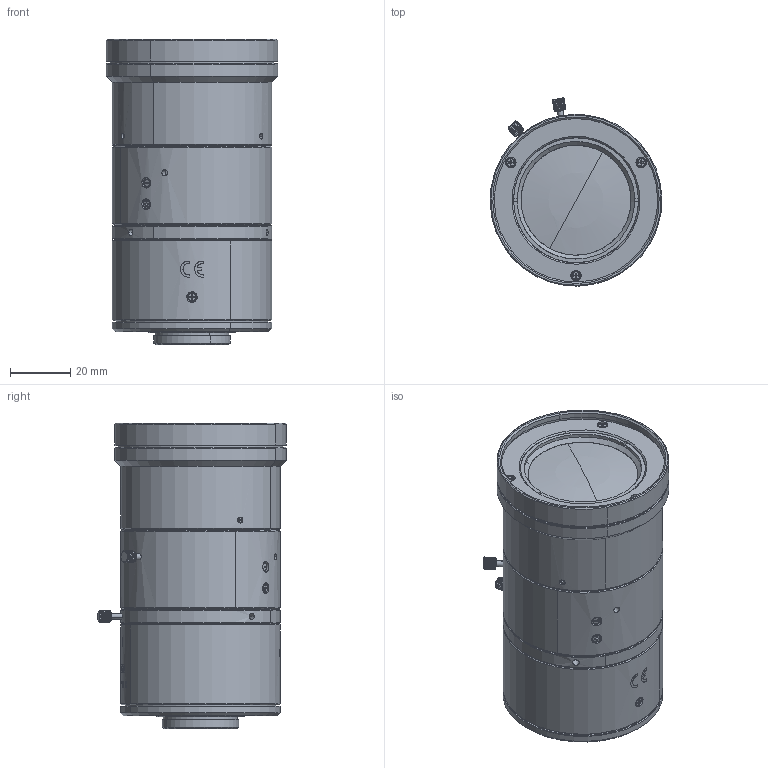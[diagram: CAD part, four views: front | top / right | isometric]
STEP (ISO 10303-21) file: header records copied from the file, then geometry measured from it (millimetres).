
FILE_DESCRIPTION(('CATIA V5 STEP Exchange'),'2;1');
FILE_NAME('\\Cadsys-srv224\13_特機設技-秘\01_機構設計\01_機種別\00.開発・量産機種\CATIA_data\EC004E0000(M695 f=25)\07_to客先\11_TEG\3D_CAD\M111FM25.stp','2015-01-29T07:09:17+00:00',('none'),('none'),'CATIA Version 5 Release 19 SP 8 (IN-10)','CATIA V5 STEP AP203','none');
FILE_SCHEMA(('CONFIG_CONTROL_DESIGN'));
Products named in the file (1): M111FM25
Bounding box: 56.98 x 62.57 x 101.27 mm (x, y, z)
Volume: 205249.3 mm3; surface area: 29666.5 mm2
Topology: 1 solids, 11 shells, 2135 faces, 5814 edges, 3797 vertices
Faces by surface type: bspline 1246, plane 294, cylinder 288, cone 277, torus 26, sphere 4
Entity records: 83662 total; most frequent: CARTESIAN_POINT 42691, ORIENTED_EDGE 11572, EDGE_CURVE 5786, B_SPLINE_CURVE_WITH_KNOTS 4091, VERTEX_POINT 3797, DIRECTION 3007, EDGE_LOOP 2283, ADVANCED_FACE 2135
